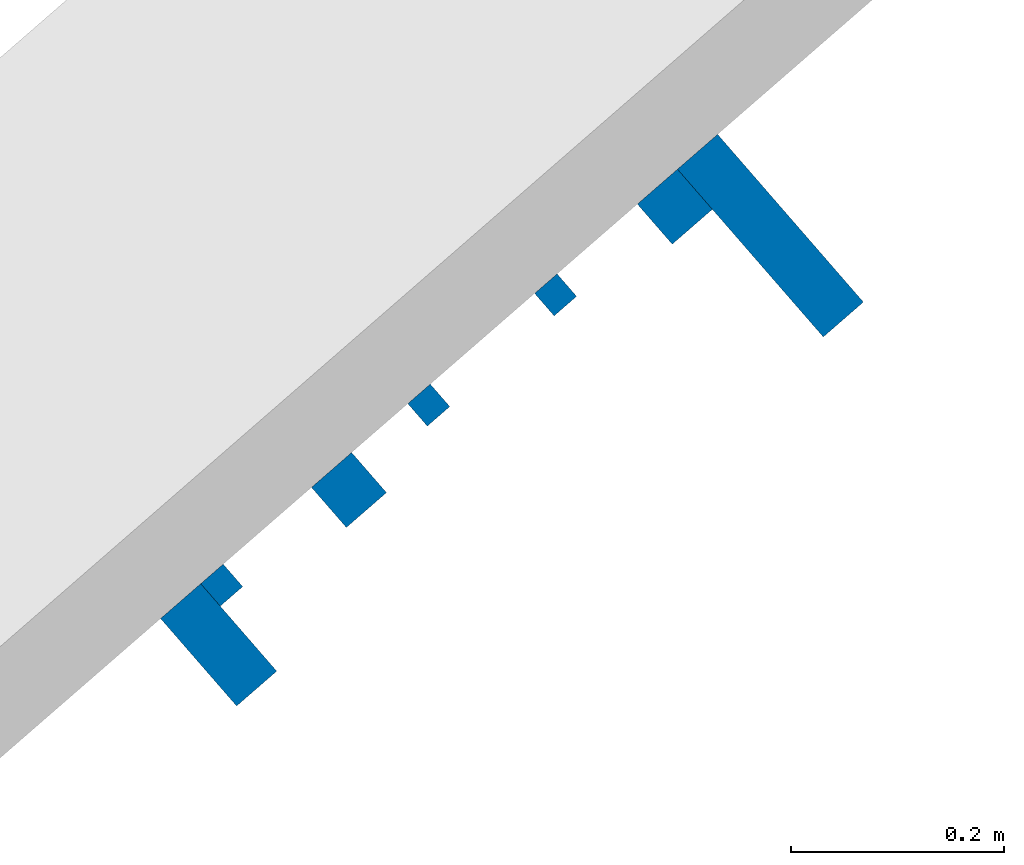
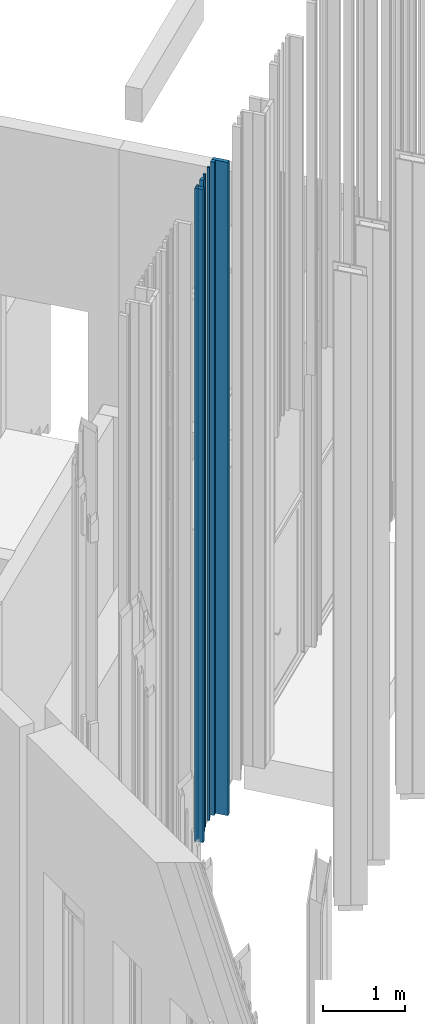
# One storey, part 201 of 390: 7 walls.
"""IFC2X3 building model written with IfcOpenShell, lengths in millimetres."""

from ifc_helpers import new_model, entity, si_unit, converted_unit, derived_unit, money_unit, direction, frame, origin_with_axes, place, context, subcontext, project, spatial, faceted_brep, material, type_object, element, save


model = new_model("IFC2X3")

# Units and contexts
model_context = context("Model", 3, precision=1e-05, world=origin_with_axes(), true_north=direction((0.0, 1.0)))
body_context = subcontext(model_context, "Body", "Model", "MODEL_VIEW")
ifc_project = project(units=[si_unit("LENGTHUNIT", "METRE", prefix="MILLI"), si_unit("AREAUNIT", "SQUARE_METRE"), si_unit("VOLUMEUNIT", "CUBIC_METRE"), converted_unit("PLANEANGLEUNIT", "DEGREE", entity("IfcPlaneAngleMeasure", 0.0174532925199), si_unit("PLANEANGLEUNIT", "RADIAN"), dimensions=[0, 0, 0, 0, 0, 0, 0]), si_unit("SOLIDANGLEUNIT", "STERADIAN"), money_unit("EUR"), converted_unit("TIMEUNIT", "Year", entity("IfcTimeMeasure", 31556926.0), si_unit("TIMEUNIT", "SECOND"), dimensions=[0, 0, 1, 0, 0, 0, 0]), si_unit("MASSUNIT", "GRAM", prefix="KILO"), si_unit("THERMODYNAMICTEMPERATUREUNIT", "DEGREE_CELSIUS"), si_unit("LUMINOUSINTENSITYUNIT", "LUMEN"), si_unit("ENERGYUNIT", "JOULE", prefix="MEGA"), derived_unit("THERMALCONDUCTANCEUNIT", [(si_unit("POWERUNIT", "WATT"), 1), (si_unit("LENGTHUNIT", "METRE"), -1), (si_unit("THERMODYNAMICTEMPERATUREUNIT", "KELVIN"), -1)]), derived_unit("SPECIFICHEATCAPACITYUNIT", [(si_unit("ENERGYUNIT", "JOULE"), 1), (si_unit("MASSUNIT", "GRAM", prefix="KILO"), -1), (si_unit("THERMODYNAMICTEMPERATUREUNIT", "KELVIN"), -1)]), derived_unit("MASSDENSITYUNIT", [(si_unit("MASSUNIT", "GRAM", prefix="KILO"), 1), (si_unit("VOLUMEUNIT", "CUBIC_METRE"), -1)])], contexts=[model_context])

# Site, building, storey
site_placement = place(None, origin_with_axes())
site = spatial("IfcSite", under=ifc_project, at=site_placement, Name="Site", CompositionType="ELEMENT")
building_placement = place(site_placement, origin_with_axes())
building = spatial("IfcBuilding", under=site, at=building_placement, Name="Building", CompositionType="ELEMENT")
storey_placement = place(building_placement, origin_with_axes())
storey = spatial("IfcBuildingStorey", under=building, at=storey_placement, Name="1 korrus", CompositionType="ELEMENT", Elevation=0.0)

# Walls
ifc_material = material(Name="Site specified")
wall_type = type_object("IfcWallType", Name="Puitfassaadi ribistik", PredefinedType="NOTDEFINED")
wall_1_placement = place(storey_placement, frame((143662.937847, 69529.4783812, 100.0), z_axis=(0.0, 0.0, 1.0), x_axis=(-0.754709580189, -0.65605902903, 0.0)))
element("IfcWall", 1, at=wall_1_placement, inside=storey, type_object=wall_type, material=ifc_material, Name="Site specified", context=body_context, shape_type="Brep", body=[
    faceted_brep([(-14.0, -14.0, 9765.0), (-14.0, -14.0, 0.0), (14.0, -14.0, 0.0), (14.0, -14.0, 9765.0), (-14.0, 14.0, 9765.0), (-14.0, 14.0, 0.0), (14.0, 14.0, 0.0), (14.0, 14.0, 9765.0)], [[[0, 1, 2, 3]], [[4, 5, 1, 0]], [[2, 1, 5, 6]], [[3, 2, 6, 7]], [[4, 0, 3, 7]], [[7, 6, 5, 4]]]),
])
for number, where, z_axis, x_axis, name in (
    (2, (143468.647038, 69346.008815, 100.0), (0.0, 0.0, 1.0), (-0.754709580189, -0.65605902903, 0.0), "Site specified"),
    (3, (143775.059128, 69612.3687808, 100.0), (0.0, 0.0, 1.0), (-0.754709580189, -0.65605902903, 0.0), "Site specified"),
):
    element("IfcWall", number, at=place(storey_placement, frame(where, z_axis=z_axis, x_axis=x_axis)), inside=storey, type_object=wall_type, material=ifc_material, Name=name, context=body_context, shape_type="Brep", body=[
        faceted_brep([(-25.0, -25.0, 9765.0), (-25.0, -25.0, 0.0), (25.0, -25.0, 0.0), (25.0, -25.0, 9765.0), (-25.0, 25.0, 9765.0), (-25.0, 25.0, 0.0), (25.0, 25.0, 0.0), (25.0, 25.0, 9765.0)], [[[0, 1, 2, 3]], [[4, 5, 1, 0]], [[2, 1, 5, 6]], [[3, 2, 6, 7]], [[4, 0, 3, 7]], [[7, 6, 5, 4]]]),
    ])
for number, where, z_axis, x_axis, name in (
    (4, (143543.693733, 69425.8210546, 100.0), (0.0, 0.0, 1.0), (-0.754709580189, -0.65605902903, 0.0), "Site specified"),
    (5, (143348.978662, 69256.5578251, 100.0), (0.0, 0.0, 1.0), (-0.754709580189, -0.65605902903, 0.0), "Site specified"),
):
    element("IfcWall", number, at=place(storey_placement, frame(where, z_axis=z_axis, x_axis=x_axis)), inside=storey, type_object=wall_type, material=ifc_material, Name=name, context=body_context, shape_type="Brep", body=[
        faceted_brep([(-14.0, -14.0, 9765.0), (-14.0, -14.0, 0.0), (14.0, -14.0, 0.0), (14.0, -14.0, 9765.0), (-14.0, 14.0, 9765.0), (-14.0, 14.0, 0.0), (14.0, 14.0, 0.0), (14.0, 14.0, 9765.0)], [[[0, 1, 2, 3]], [[4, 5, 1, 0]], [[2, 1, 5, 6]], [[3, 2, 6, 7]], [[4, 0, 3, 7]], [[7, 6, 5, 4]]]),
    ])
wall_2_placement = place(storey_placement, frame((143864.9513, 69585.1723207, 100.0), z_axis=(0.0, 0.0, 1.0), x_axis=(-0.754709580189, -0.65605902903, 0.0)))
element("IfcWall", 6, at=wall_2_placement, inside=storey, type_object=wall_type, material=ifc_material, Name="Site specified", context=body_context, shape_type="Brep", body=[
    faceted_brep([(-25.0, -104.5, 9765.0), (-25.0, -104.5, 0.0), (25.0, -104.5, 0.0), (25.0, -104.5, 9765.0), (-25.0, 104.5, 9765.0), (-25.0, 104.5, 0.0), (25.0, 104.5, 0.0), (25.0, 104.5, 9765.0)], [[[0, 1, 2, 3]], [[4, 5, 1, 0]], [[2, 1, 5, 6]], [[3, 2, 6, 7]], [[4, 0, 3, 7]], [[7, 6, 5, 4]]]),
])
wall_3_placement = place(storey_placement, frame((143346.115379, 69200.405785, 100.0), z_axis=(0.0, 0.0, 1.0), x_axis=(-0.754709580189, -0.65605902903, 0.0)))
element("IfcWall", 7, at=wall_3_placement, inside=storey, type_object=wall_type, material=ifc_material, Name="Site specified", context=body_context, shape_type="Brep", body=[
    faceted_brep([(-25.0, -54.5, 9765.0), (-25.0, -54.5, 0.0), (25.0, -54.5, 0.0), (25.0, -54.5, 9765.0), (-25.0, 54.5, 9765.0), (-25.0, 54.5, 0.0), (25.0, 54.5, 0.0), (25.0, 54.5, 9765.0)], [[[0, 1, 2, 3]], [[4, 5, 1, 0]], [[2, 1, 5, 6]], [[3, 2, 6, 7]], [[4, 0, 3, 7]], [[7, 6, 5, 4]]]),
])

save(model, "model.ifc")
